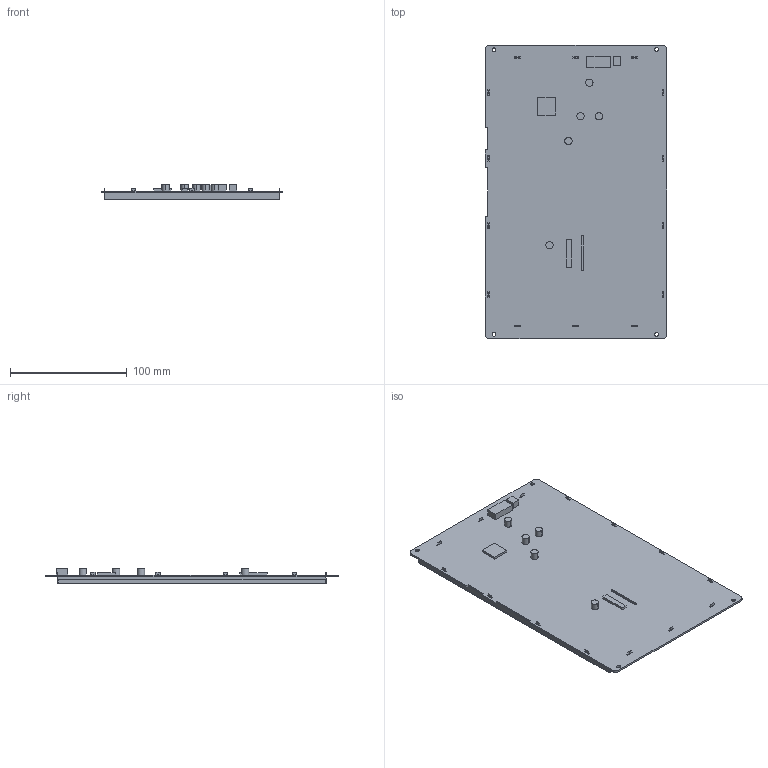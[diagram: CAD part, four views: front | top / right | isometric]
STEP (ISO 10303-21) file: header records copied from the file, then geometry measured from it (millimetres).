
FILE_DESCRIPTION((''),'2;1');
FILE_NAME('3D-DMG12800K101-03WN','2022-02-17T',('Administrator'),(''),'PRO/ENGINEER BY PARAMETRIC TECHNOLOGY CORPORATION, 2011310','PRO/ENGINEER BY PARAMETRIC TECHNOLOGY CORPORATION, 2011310','');
FILE_SCHEMA(('CONFIG_CONTROL_DESIGN','SHAPE_APPEARANCE_LAYERS_GROUPS'));
Length unit declared in the file: millimetre
Products named in the file (1): 3D-DMG12800K101-03WN
Bounding box: 155.32 x 251.55 x 13.2 mm (x, y, z)
Volume: 166404.5 mm3; surface area: 160914.6 mm2
Topology: 1 solids, 1 shells, 273 faces, 838 edges, 540 vertices
Faces by surface type: plane 249, cylinder 24
Entity records: 11161 total; most frequent: ORIENTED_EDGE 1676, CARTESIAN_POINT 1651, DIRECTION 1432, EDGE_CURVE 838, VECTOR 790, LINE 790, VERTEX_POINT 540, AXIS2_PLACEMENT_3D 321
